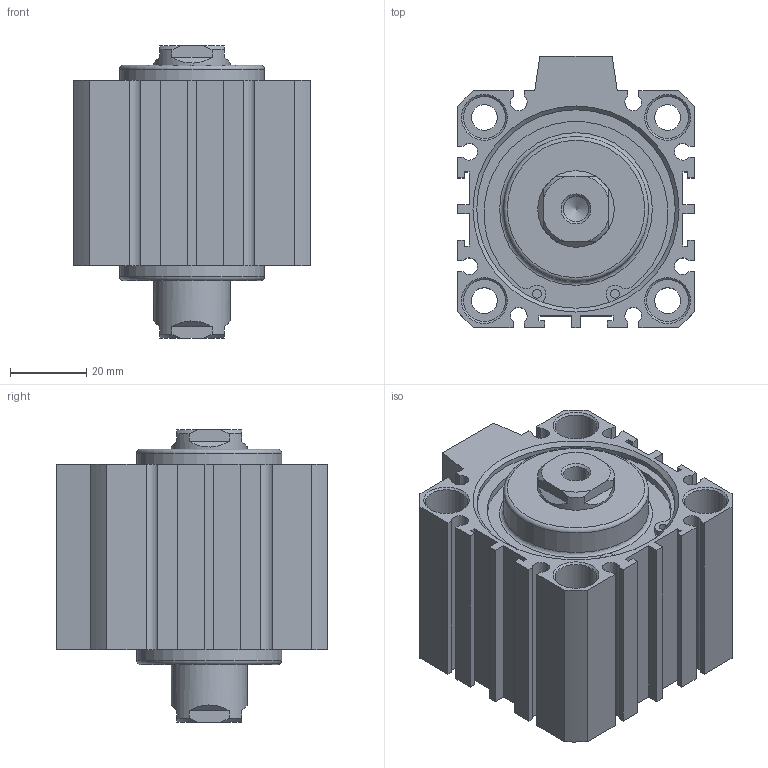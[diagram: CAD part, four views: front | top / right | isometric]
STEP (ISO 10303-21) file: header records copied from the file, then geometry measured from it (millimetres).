
FILE_DESCRIPTION((''),'2;1');
FILE_NAME('I:\3D電子目錄\氣缸\JDD\JDD-S\JDD50-S\JDD50x10-S.stp','2007-02-09T08:39:12',('662F206'),(''),'Autodesk Inventor 10','Autodesk Inventor 10','');
FILE_SCHEMA(('AUTOMOTIVE_DESIGN { 1 0 10303 214 1 1 1 1 }'));
Length unit declared in the file: millimetre
Products named in the file (3): JDD50-S; R 形環 52
Assembly tree (3 placements, depth 2):
  JDD50-S
    JDD50-S
    R 形環 52  x2
Bounding box: 62 x 71 x 76.6 mm (x, y, z)
Volume: 172114.8 mm3; surface area: 41360.2 mm2
Topology: 3 solids, 3 shells, 200 faces, 502 edges, 330 vertices
Faces by surface type: plane 116, cylinder 52, cone 24, bspline 6, torus 2
Full cylindrical faces by diameter (mm): 2.3 x4, 2.7 x2, 6.8 x4, 11 x8, 20 x2, 38 x2, 52 x4, 55 x2
Entity records: 5511 total; most frequent: CARTESIAN_POINT 1094, DIRECTION 908, ORIENTED_EDGE 824, EDGE_CURVE 412, AXIS2_PLACEMENT_3D 324, VERTEX_POINT 300, EDGE_LOOP 272, VECTOR 260
